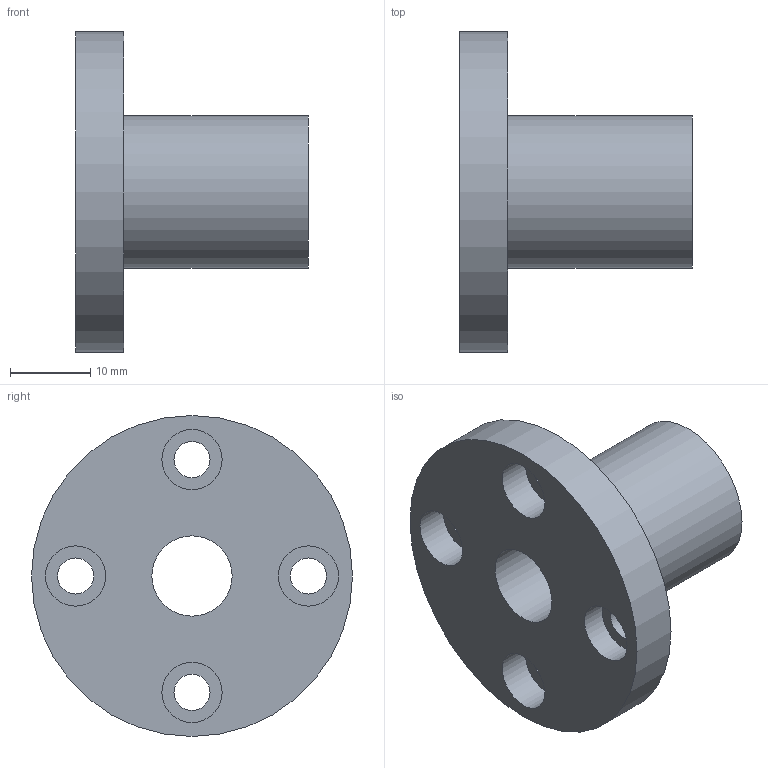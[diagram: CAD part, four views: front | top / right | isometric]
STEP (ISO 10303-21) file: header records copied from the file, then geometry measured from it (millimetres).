
FILE_DESCRIPTION( ( 'STEP AP203' ), '1' );
FILE_NAME( 'p:/temp/worker_5/temp/exporttempdir_1488_693_BLv4Q/format_0/LMEF10UU.stp', '2020-05-07T03:19:08', ( 'License CC BY-ND 4.0' ), ( 'CADENAS' ), ' ', 'PARTsolutions', ' ' );
FILE_SCHEMA( ( 'CONFIG_CONTROL_DESIGN' ) );
Length unit declared in the file: millimetre
Products named in the file (1): _LMEF10UU
Bounding box: 29 x 40 x 40 mm (x, y, z)
Volume: 10966.2 mm3; surface area: 5751.3 mm2
Topology: 1 solids, 1 shells, 18 faces, 34 edges, 23 vertices
Faces by surface type: cylinder 11, plane 7
Full cylindrical faces by diameter (mm): 4.5 x4, 7.5 x4, 10 x1, 19 x1, 40 x1
Entity records: 468 total; most frequent: DIRECTION 82, CARTESIAN_POINT 63, EDGE_LOOP 44, ORIENTED_EDGE 44, AXIS2_PLACEMENT_3D 41, FACE_OUTER_BOUND 29, EDGE_CURVE 22, VERTEX_POINT 22
